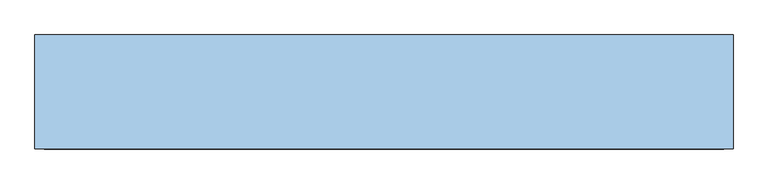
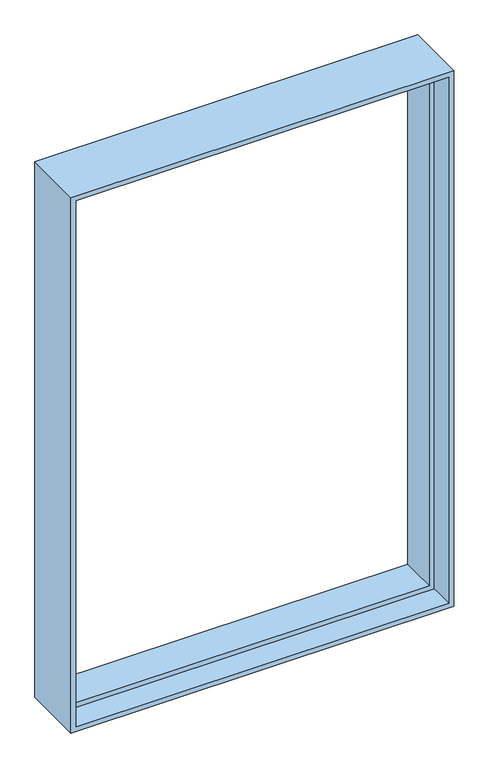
"""IFC4 building model written with IfcOpenShell, lengths in millimetres: window geometry, Premarco metálico : Premarco metálico PV1."""

import ifcopenshell
import ifcopenshell.guid

model = None  # the IFC model being written
_history = None  # IfcOwnerHistory: only IFC2X3 demands one
_inside = {}  # id of a spatial element -> (the spatial element, [elements in it])
_under = {}  # id of a project, library or spatial element -> (it, [spatial elements below it])
_declared = {}  # id of a project -> (the project, [libraries it declares])
_typed = {}  # id of a type object -> (the type object, [elements of that type])
_made_of = {}  # id of a material, layer set ... -> (it, [elements and type objects made of it])


def new_model(schema):
    """Start an empty IFC model of exactly this schema.

    Asked for "IFC4X3", IfcOpenShell would pick the latest addendum, in which some entities
    have other attributes; the version numbers below select the first issue.
    IFC2X3 requires an IfcOwnerHistory on every rooted entity: one is made here for all.
    """
    global model, _history
    if schema == "IFC4X3":
        model = ifcopenshell.file(schema_version=(4, 3, 0, 0))
    else:
        model = ifcopenshell.file(schema=schema)
    _inside.clear()
    _under.clear()
    _declared.clear()
    _typed.clear()
    _made_of.clear()
    _history = None
    if model.schema == "IFC2X3":
        org = make("IfcOrganization", Name="unknown")
        user = make(
            "IfcPersonAndOrganization",
            ThePerson=make("IfcPerson", FamilyName="unknown"),
            TheOrganization=org,
        )
        app = make(
            "IfcApplication",
            ApplicationDeveloper=org,
            Version="unknown",
            ApplicationFullName="unknown",
            ApplicationIdentifier="unknown",
        )
        _history = make(
            "IfcOwnerHistory",
            OwningUser=user,
            OwningApplication=app,
            ChangeAction="ADDED",
            CreationDate=0,
        )
    return model


def make(cls, **values):
    """One entity of the class cls with the attributes given. An attribute that is None is left unset."""
    return model.create_entity(
        cls, **{name: value for name, value in values.items() if value is not None}
    )


def rooted(cls, **values):
    """An entity with a GlobalId (a new one), such as an element, a storey or a relation."""
    return make(cls, GlobalId=ifcopenshell.guid.new(), OwnerHistory=_history, **values)


def si_unit(unit_type, name, prefix=None):
    """IfcSIUnit, for example si_unit("LENGTHUNIT", "METRE", prefix="MILLI")."""
    return make("IfcSIUnit", UnitType=unit_type, Prefix=prefix, Name=name)


def assignment(units):
    """IfcUnitAssignment: the units of a project."""
    return None if units is None else make("IfcUnitAssignment", Units=units)


def point(xyz):
    """IfcCartesianPoint."""
    return None if xyz is None else make("IfcCartesianPoint", Coordinates=xyz)


def direction(xyz):
    """IfcDirection."""
    return None if xyz is None else make("IfcDirection", DirectionRatios=xyz)


def frame(location, z_axis=None, x_axis=None):
    """IfcAxis2Placement3D, a coordinate frame: its origin and axes. An axis left out is left unset."""
    return make(
        "IfcAxis2Placement3D",
        Location=point(location),
        Axis=direction(z_axis),
        RefDirection=direction(x_axis),
    )


def origin():
    """The frame at (0, 0, 0) with its axes left unset."""
    return frame((0.0, 0.0, 0.0))


def place(relative_to, where):
    """IfcLocalPlacement: puts the frame where relative to a parent placement (None: the world)."""
    return make(
        "IfcLocalPlacement", PlacementRelTo=relative_to, RelativePlacement=where
    )


def context(
    kind, dimensions, precision=None, world=None, true_north=None, identifier=None
):
    """IfcGeometricRepresentationContext, for example the 3D "Model" context."""
    return make(
        "IfcGeometricRepresentationContext",
        ContextIdentifier=identifier,
        ContextType=kind,
        CoordinateSpaceDimension=dimensions,
        Precision=precision,
        WorldCoordinateSystem=world,
        TrueNorth=true_north,
    )


def project(units=None, contexts=None):
    """IfcProject with its units and contexts."""
    return rooted(
        "IfcProject",
        Name="project",
        RepresentationContexts=contexts,
        UnitsInContext=assignment(units),
    )


def spatial(cls, under=None, at=None, **own):
    """A site, building, storey or space (cls), placed at a placement, below another one or the project."""
    s = rooted(cls, ObjectPlacement=at, **own)
    if under is not None:
        _under.setdefault(under.id(), (under, []))[1].append(s)
    return s


def faces_of(points, faces, orient=None, outer=None):
    """IfcFace entities. A face is a list of loops; a loop is a list of indices into points, from 0.

    orient and outer hold one flag for each loop. By default every Orientation is true, the
    first loop of a face is its IfcFaceOuterBound and the others are IfcFaceBound.
    """
    made = []
    for i, loops in enumerate(faces):
        bounds = []
        for j, loop in enumerate(loops):
            is_outer = j == 0 if outer is None else outer[i][j]
            bounds.append(
                make(
                    "IfcFaceOuterBound" if is_outer else "IfcFaceBound",
                    Bound=make("IfcPolyLoop", Polygon=[points[k] for k in loop]),
                    Orientation=True if orient is None else orient[i][j],
                )
            )
        made.append(make("IfcFace", Bounds=bounds))
    return made


def faceted_brep(points, faces, orient=None, outer=None, voids=None):
    """IfcFacetedBrep: a solid bounded by flat faces; with voids (closed shells), ...WithVoids."""
    shared = [point(p) for p in points]
    hull = make("IfcClosedShell", CfsFaces=faces_of(shared, faces, orient, outer))
    if voids is None:
        return make("IfcFacetedBrep", Outer=hull)
    return make(
        "IfcFacetedBrepWithVoids",
        Outer=hull,
        Voids=[
            make(cls, CfsFaces=faces_of(shared, fs, o, b)) for cls, fs, o, b in voids
        ],
    )


def shape(context_of_items, identifier, shape_type, items):
    """IfcShapeRepresentation: the items that make up one representation, for example the "Body"."""
    return make(
        "IfcShapeRepresentation",
        ContextOfItems=context_of_items,
        RepresentationIdentifier=identifier,
        RepresentationType=shape_type,
        Items=items,
    )


def source(mapping_origin, context_of_items, identifier, shape_type, items):
    """IfcRepresentationMap: a shape defined once, which mapped items show again and again."""
    return make(
        "IfcRepresentationMap",
        MappingOrigin=mapping_origin,
        MappedRepresentation=shape(context_of_items, identifier, shape_type, items),
    )


def transform(
    local_origin,
    x_axis=None,
    y_axis=None,
    z_axis=None,
    scale=None,
    scale2=None,
    scale3=None,
    uniform=True,
):
    """IfcCartesianTransformationOperator3D, or its non-uniform kind. x_axis, y_axis, z_axis: its Axis1, 2, 3."""
    if uniform:
        return make(
            "IfcCartesianTransformationOperator3D",
            Axis1=direction(x_axis),
            Axis2=direction(y_axis),
            LocalOrigin=point(local_origin),
            Scale=scale,
            Axis3=direction(z_axis),
        )
    return make(
        "IfcCartesianTransformationOperator3DnonUniform",
        Axis1=direction(x_axis),
        Axis2=direction(y_axis),
        LocalOrigin=point(local_origin),
        Scale=scale,
        Axis3=direction(z_axis),
        Scale2=scale2,
        Scale3=scale3,
    )


def mapped(mapping_source, mapping_target):
    """IfcMappedItem: shows the shape of a source again, moved by a transform."""
    return make(
        "IfcMappedItem", MappingSource=mapping_source, MappingTarget=mapping_target
    )


def made_of(thing, what):
    """Note that an element or type object is made of a material, layer set ...; save() writes the relation."""
    if what is not None:
        _made_of.setdefault(what.id(), (what, []))[1].append(thing)
    return thing


def element(
    cls,
    number,
    at=None,
    inside=None,
    cuts=None,
    type_object=None,
    material=None,
    context=None,
    identifier="Body",
    shape_type=None,
    held_by="IfcProductDefinitionShape",
    body=None,
    shapes=None,
    **own,
):
    """One element of the class cls, such as IfcWall. Its Tag is "e" and its number.

    at: its placement. inside: the storey or other place that contains it. cuts: it is an
    opening in that element (IfcRelVoidsElement). A single representation is given by context,
    identifier, shape_type and body (its items); several are given by shapes. held_by: the class
    of the entity that holds the representations. save() writes the other relations.
    """
    e = rooted(cls, Tag="e%d" % number, ObjectPlacement=at, **own)
    if body is not None:
        shapes = [shape(context, identifier, shape_type, body)]
    if shapes is not None:
        e.Representation = make(held_by, Representations=shapes)
    if inside is not None:
        _inside.setdefault(inside.id(), (inside, []))[1].append(e)
    if cuts is not None:
        rooted(
            "IfcRelVoidsElement", RelatingBuildingElement=cuts, RelatedOpeningElement=e
        )
    if type_object is not None:
        _typed.setdefault(type_object.id(), (type_object, []))[1].append(e)
    return made_of(e, material)


def aggregate(whole, parts):
    """IfcRelAggregates: a whole, such as a stair, and the parts it consists of."""
    return rooted("IfcRelAggregates", RelatingObject=whole, RelatedObjects=parts)


def save(model, path):
    """Write the relations noted so far, then the file.

    IfcRelAggregates (storeys below a building ...), IfcRelContainedInSpatialStructure (elements
    in a storey), IfcRelDefinesByType, IfcRelAssociatesMaterial and IfcRelDeclares: one each for
    every whole, place, type object, material and project.
    """
    for whole, parts in _under.values():
        aggregate(whole, parts)
    for where, things in _inside.values():
        rooted(
            "IfcRelContainedInSpatialStructure",
            RelatedElements=things,
            RelatingStructure=where,
        )
    for kind, things in _typed.values():
        rooted("IfcRelDefinesByType", RelatedObjects=things, RelatingType=kind)
    for what, things in _made_of.values():
        rooted("IfcRelAssociatesMaterial", RelatedObjects=things, RelatingMaterial=what)
    for by, libraries in _declared.values():
        rooted("IfcRelDeclares", RelatingContext=by, RelatedDefinitions=libraries)
    model.write(path)


def window_a6007829(model_context):
    return source(origin(), model_context, "Body", "Brep", [
        faceted_brep([(-758.5361764, -65.0, 2892.0), (-758.5361764, -65.0, 838.0), (-758.5361764, 75.0, 838.0), (-758.5361764, 75.0, 2892.0), (-796.5361764, 75.0, 800.0), (-796.5361764, 75.0, 2930.0), (643.4638236, 75.0, 2930.0), (643.4638236, 75.0, 800.0), (605.4638236, 75.0, 838.0), (605.4638236, 75.0, 2892.0), (605.4638236, -65.0, 838.0), (-777.5361764, -65.0, 2911.0), (-777.5361764, -65.0, 819.0), (624.4638236, -65.0, 819.0), (624.4638236, -65.0, 2911.0), (605.4638236, -65.0, 2892.0), (-777.5361764, -160.0, 2911.0), (-777.5361764, -160.0, 819.0), (624.4638236, -160.0, 819.0), (-796.5361764, -160.0, 2930.0), (-796.5361764, -160.0, 800.0), (643.4638236, -160.0, 800.0), (643.4638236, -160.0, 2930.0), (624.4638236, -160.0, 2911.0)], [[[0, 1, 2, 3]], [[4, 5, 6, 7], [3, 2, 8, 9]], [[1, 10, 8, 2]], [[11, 12, 13, 14], [1, 0, 15, 10]], [[16, 17, 12, 11]], [[17, 18, 13, 12]], [[19, 20, 21, 22], [17, 16, 23, 18]], [[5, 4, 20, 19]], [[4, 7, 21, 20]], [[10, 15, 9, 8]], [[18, 23, 14, 13]], [[7, 6, 22, 21]], [[15, 0, 3, 9]], [[23, 16, 11, 14]], [[6, 5, 19, 22]]]),
    ])


if __name__ == "__main__":
    model = new_model("IFC4")
    model_context = context("Model", 3, world=origin())
    ifc_project = project(units=[si_unit("LENGTHUNIT", "METRE", prefix="MILLI")], contexts=[model_context])
    site = spatial("IfcSite", under=ifc_project)
    building = spatial("IfcBuilding", under=site)
    placement = place(None, origin())
    window_shape = window_a6007829(model_context)
    element("IfcWindow", 1, ObjectType="Premarco metálico : Premarco metálico PV1", at=placement, inside=building, context=model_context, shape_type="MappedRepresentation", body=[
        mapped(window_shape, transform((0.0, 0.0, 0.0), x_axis=(1.0, 0.0, 0.0), y_axis=(0.0, 1.0, 0.0), z_axis=(0.0, 0.0, 1.0))),
    ])
    save(model, "model.ifc")
